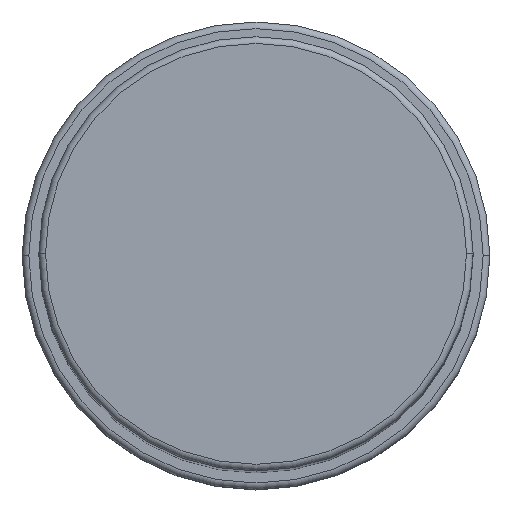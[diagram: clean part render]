
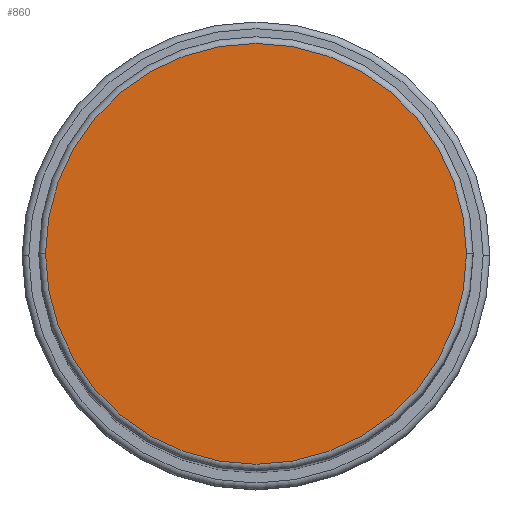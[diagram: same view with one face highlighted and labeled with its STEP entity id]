
A CAD part, top view. The second image highlights one B-rep face of the part: STEP entity #860.
In plain terms, the highlighted planar face has unit normal (0, 0, 1).
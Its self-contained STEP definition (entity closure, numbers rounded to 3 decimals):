
#129 = VERTEX_POINT ( 'NONE', #1637 ) ;
#157 = AXIS2_PLACEMENT_3D ( 'NONE', #1248, #800, #791 ) ;
#325 = ORIENTED_EDGE ( 'NONE', *, *, #1308, .T. ) ;
#375 = VERTEX_POINT ( 'NONE', #1376 ) ;
#472 = CARTESIAN_POINT ( 'NONE',  ( 0., 0., 183. ) ) ;
#501 = PLANE ( 'NONE',  #157 ) ;
#634 = DIRECTION ( 'NONE',  ( 1., 0., 0. ) ) ;
#791 = DIRECTION ( 'NONE',  ( 1., 0., 0. ) ) ;
#800 = DIRECTION ( 'NONE',  ( 0., 0., 1. ) ) ;
#860 = ADVANCED_FACE ( 'NONE', ( #997 ), #501, .T. ) ;
#898 = EDGE_CURVE ( 'NONE', #375, #129, #1661, .T. ) ;
#947 = DIRECTION ( 'NONE',  ( 1., 0., 0. ) ) ;
#954 = DIRECTION ( 'NONE',  ( 0., 0., 1. ) ) ;
#997 = FACE_OUTER_BOUND ( 'NONE', #1551, .T. ) ;
#1248 = CARTESIAN_POINT ( 'NONE',  ( 0., 0., 183. ) ) ;
#1308 = EDGE_CURVE ( 'NONE', #129, #375, #1813, .T. ) ;
#1376 = CARTESIAN_POINT ( 'NONE',  ( -31.5, 0., 183. ) ) ;
#1492 = AXIS2_PLACEMENT_3D ( 'NONE', #472, #954, #947 ) ;
#1542 = DIRECTION ( 'NONE',  ( 0., 0., 1. ) ) ;
#1551 = EDGE_LOOP ( 'NONE', ( #325, #1780 ) ) ;
#1627 = AXIS2_PLACEMENT_3D ( 'NONE', #1708, #1542, #634 ) ;
#1637 = CARTESIAN_POINT ( 'NONE',  ( 31.5, 0., 183. ) ) ;
#1661 = CIRCLE ( 'NONE', #1492, 31.5 ) ;
#1708 = CARTESIAN_POINT ( 'NONE',  ( 0., 0., 183. ) ) ;
#1780 = ORIENTED_EDGE ( 'NONE', *, *, #898, .T. ) ;
#1813 = CIRCLE ( 'NONE', #1627, 31.5 ) ;
